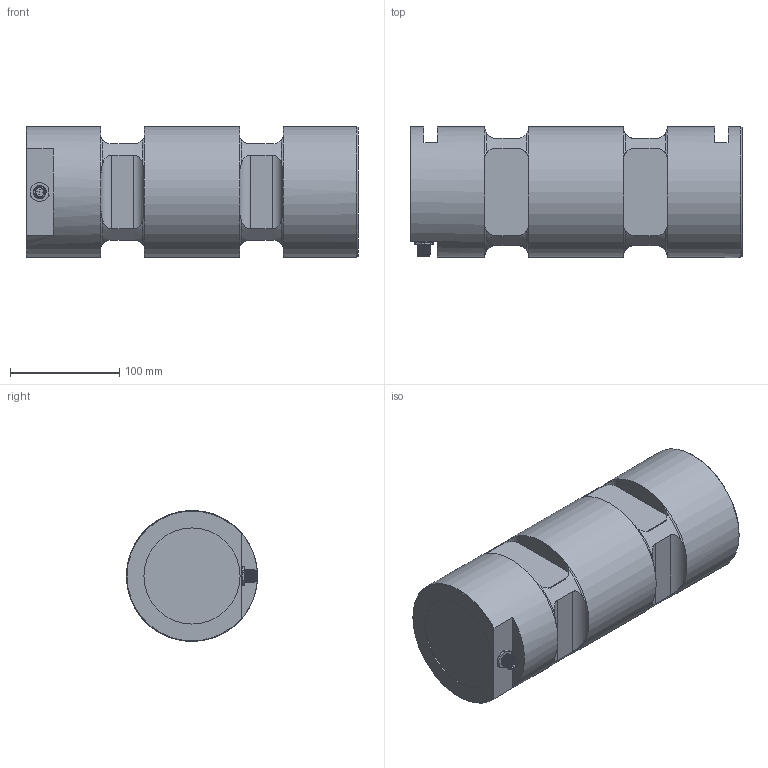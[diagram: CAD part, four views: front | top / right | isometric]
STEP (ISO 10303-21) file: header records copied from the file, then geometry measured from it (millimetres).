
FILE_DESCRIPTION(/* description */ ('Alibre Inc.'),/* implementation_level */ '2;1');
FILE_NAME(/* name */ 'export-86045ABC-89BF-4F40-8940-3122230015C1',/* time_stamp */ '2020-04-17T09:33:23+02:00',/* author */ (''),/* organization */ (''),/* preprocessor_version */ 'ST-DEVELOPER v17',/* originating_system */ 'Alibre',/* authorisation */ '');
FILE_SCHEMA (('CONFIG_CONTROL_DESIGN'));
Length unit declared in the file: centimetre
Bounding box: 304 x 120 x 120 mm (x, y, z)
Volume: 3286608.9 mm3; surface area: 303881.7 mm2
Topology: 7 solids, 8 shells, 260 faces, 578 edges, 342 vertices
Faces by surface type: cylinder 89, plane 81, cone 72, torus 18
Full cylindrical faces by diameter (mm): 0.5 x10, 8 x2, 10 x1, 10.3 x1, 11 x1, 11.5 x1, 12 x21, 13 x2, 14.5 x1, 88 x1, 120 x3
Entity records: 6616 total; most frequent: CARTESIAN_POINT 1789, ORIENTED_EDGE 944, DIRECTION 754, EDGE_CURVE 466, FACE_BOUND 377, EDGE_LOOP 376, AXIS2_PLACEMENT_3D 348, VERTEX_POINT 327
